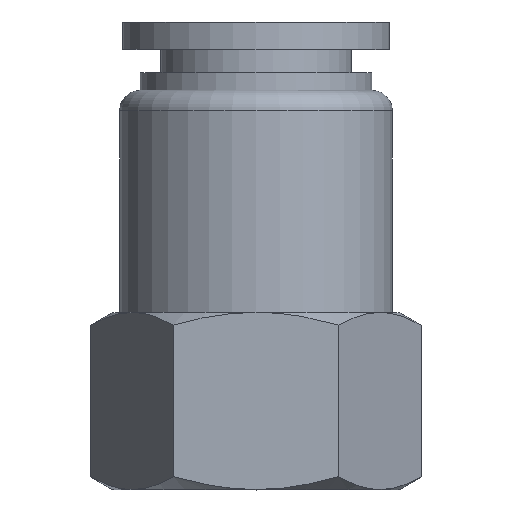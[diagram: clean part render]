
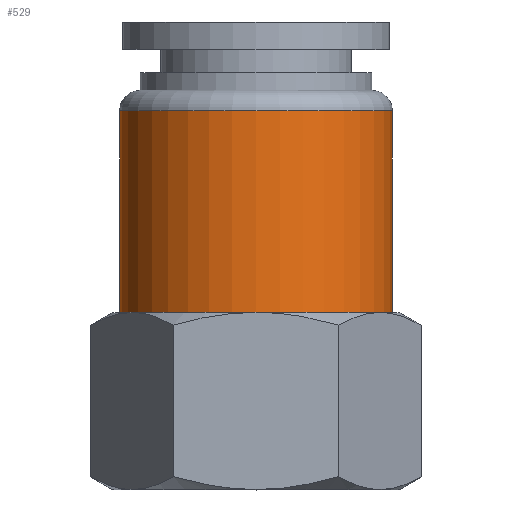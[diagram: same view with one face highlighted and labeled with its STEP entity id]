
A CAD part, top view. The second image highlights one B-rep face of the part: STEP entity #529.
In plain terms, the highlighted cylindrical face has radius 10 mm (diameter 20 mm), a full revolution.
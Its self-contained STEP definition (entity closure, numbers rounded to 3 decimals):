
#72=LINE('',#852,#86);
#86=VECTOR('',#684,10.);
#100=CYLINDRICAL_SURFACE('',#590,10.);
#108=FACE_OUTER_BOUND('',#142,.T.);
#142=EDGE_LOOP('',(#371,#372,#373,#374,#375,#376,#377));
#182=CIRCLE('',#583,10.);
#183=CIRCLE('',#584,10.);
#188=CIRCLE('',#589,10.);
#189=CIRCLE('',#591,10.);
#190=CIRCLE('',#592,10.);
#226=VERTEX_POINT('',#834);
#227=VERTEX_POINT('',#835);
#228=VERTEX_POINT('',#837);
#232=VERTEX_POINT('',#848);
#233=VERTEX_POINT('',#849);
#281=EDGE_CURVE('',#226,#227,#182,.T.);
#282=EDGE_CURVE('',#227,#228,#183,.T.);
#287=EDGE_CURVE('',#228,#226,#188,.T.);
#288=EDGE_CURVE('',#232,#233,#189,.T.);
#289=EDGE_CURVE('',#233,#232,#190,.T.);
#290=EDGE_CURVE('',#233,#227,#72,.T.);
#371=ORIENTED_EDGE('',*,*,#288,.F.);
#372=ORIENTED_EDGE('',*,*,#289,.F.);
#373=ORIENTED_EDGE('',*,*,#290,.T.);
#374=ORIENTED_EDGE('',*,*,#281,.F.);
#375=ORIENTED_EDGE('',*,*,#287,.F.);
#376=ORIENTED_EDGE('',*,*,#282,.F.);
#377=ORIENTED_EDGE('',*,*,#290,.F.);
#529=ADVANCED_FACE('',(#108),#100,.T.);
#583=AXIS2_PLACEMENT_3D('',#836,#664,#665);
#584=AXIS2_PLACEMENT_3D('',#838,#666,#667);
#589=AXIS2_PLACEMENT_3D('',#846,#676,#677);
#590=AXIS2_PLACEMENT_3D('',#847,#678,#679);
#591=AXIS2_PLACEMENT_3D('',#850,#680,#681);
#592=AXIS2_PLACEMENT_3D('',#851,#682,#683);
#664=DIRECTION('center_axis',(0.,1.,0.));
#665=DIRECTION('ref_axis',(-1.,0.,0.));
#666=DIRECTION('center_axis',(0.,1.,0.));
#667=DIRECTION('ref_axis',(-1.,0.,0.));
#676=DIRECTION('center_axis',(0.,1.,0.));
#677=DIRECTION('ref_axis',(-1.,0.,0.));
#678=DIRECTION('center_axis',(0.,-1.,0.));
#679=DIRECTION('ref_axis',(1.,0.,0.));
#680=DIRECTION('center_axis',(0.,-1.,0.));
#681=DIRECTION('ref_axis',(1.,0.,0.));
#682=DIRECTION('center_axis',(0.,-1.,0.));
#683=DIRECTION('ref_axis',(1.,0.,0.));
#684=DIRECTION('',(0.,1.,0.));
#834=CARTESIAN_POINT('',(10.,27.8,0.));
#835=CARTESIAN_POINT('',(-10.,27.8,0.));
#836=CARTESIAN_POINT('Origin',(0.,27.8,0.));
#837=CARTESIAN_POINT('',(0.,27.8,10.));
#838=CARTESIAN_POINT('Origin',(0.,27.8,0.));
#846=CARTESIAN_POINT('Origin',(0.,27.8,0.));
#847=CARTESIAN_POINT('Origin',(0.,21.15,0.));
#848=CARTESIAN_POINT('',(10.,13.,0.));
#849=CARTESIAN_POINT('',(-10.,13.,0.));
#850=CARTESIAN_POINT('Origin',(0.,13.,0.));
#851=CARTESIAN_POINT('Origin',(0.,13.,0.));
#852=CARTESIAN_POINT('',(-10.,21.15,0.));
